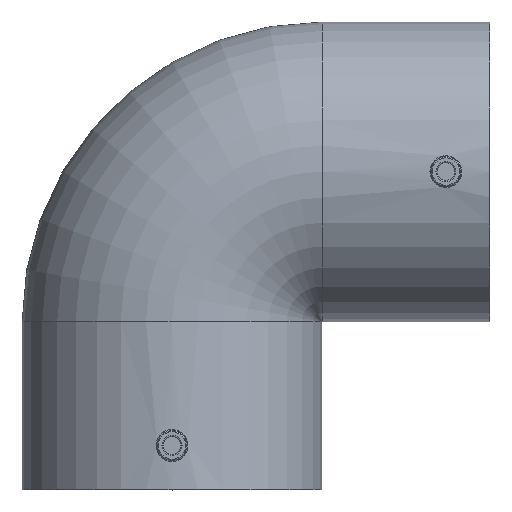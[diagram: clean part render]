
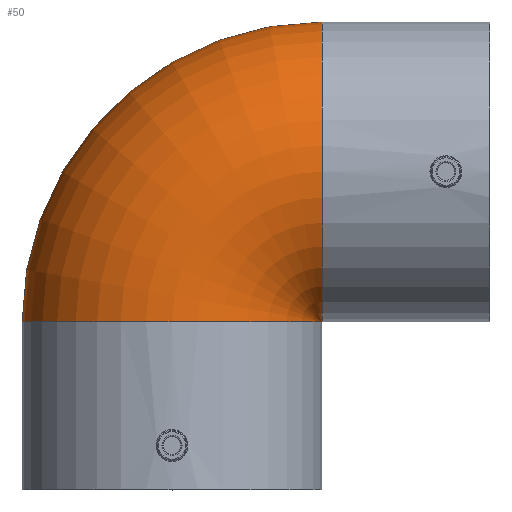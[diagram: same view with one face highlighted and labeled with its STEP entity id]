
A CAD part, top view. The second image highlights one B-rep face of the part: STEP entity #50.
In plain terms, the highlighted toroidal (fillet/blend) face has major radius 67.1 mm and minor radius 67 mm.
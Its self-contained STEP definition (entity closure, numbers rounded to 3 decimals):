
#50 = ADVANCED_FACE ( 'NONE', ( #790 ), #1873, .T. ) ;
#200 = CARTESIAN_POINT ( 'NONE',  ( -75.1, -67.1, 0. ) ) ;
#219 = CARTESIAN_POINT ( 'NONE',  ( -209.1, -67.1, 0. ) ) ;
#220 = CARTESIAN_POINT ( 'NONE',  ( -75., 67., 0. ) ) ;
#221 = CARTESIAN_POINT ( 'NONE',  ( -75., -67., 0. ) ) ;
#410 = EDGE_LOOP ( 'NONE', ( #1248, #1249, #1250, #1251 ) ) ;
#775 = DIRECTION ( 'NONE',  ( 1., 0., 0. ) ) ;
#776 = CARTESIAN_POINT ( 'NONE',  ( -75., -67.1, 0. ) ) ;
#786 = DIRECTION ( 'NONE',  ( 0., 0., 1. ) ) ;
#790 = FACE_OUTER_BOUND ( 'NONE', #410, .T. ) ;
#1219 = VERTEX_POINT ( 'NONE', #221 ) ;
#1220 = VERTEX_POINT ( 'NONE', #220 ) ;
#1221 = VERTEX_POINT ( 'NONE', #219 ) ;
#1240 = VERTEX_POINT ( 'NONE', #200 ) ;
#1248 = ORIENTED_EDGE ( 'NONE', *, *, #2104, .F. ) ;
#1249 = ORIENTED_EDGE ( 'NONE', *, *, #2105, .T. ) ;
#1250 = ORIENTED_EDGE ( 'NONE', *, *, #2106, .T. ) ;
#1251 = ORIENTED_EDGE ( 'NONE', *, *, #2112, .F. ) ;
#1608 = CARTESIAN_POINT ( 'NONE',  ( -75., 0., 0. ) ) ;
#1609 = DIRECTION ( 'NONE',  ( 1., 0., 0. ) ) ;
#1610 = DIRECTION ( 'NONE',  ( 0., 0., -1. ) ) ;
#1611 = CARTESIAN_POINT ( 'NONE',  ( -75., -67.1, 0. ) ) ;
#1612 = DIRECTION ( 'NONE',  ( 0., 0., 1. ) ) ;
#1613 = DIRECTION ( 'NONE',  ( 1., 0., 0. ) ) ;
#1614 = CARTESIAN_POINT ( 'NONE',  ( -142.1, -67.1, 0. ) ) ;
#1615 = DIRECTION ( 'NONE',  ( 0., 1., 0. ) ) ;
#1616 = DIRECTION ( 'NONE',  ( 0., 0., -1. ) ) ;
#1633 = CARTESIAN_POINT ( 'NONE',  ( -75., -67.1, 0. ) ) ;
#1634 = DIRECTION ( 'NONE',  ( 0., 0., 1. ) ) ;
#1635 = DIRECTION ( 'NONE',  ( 1., 0., 0. ) ) ;
#1723 = CIRCLE ( 'NONE', #1732, 67. ) ;
#1729 = CIRCLE ( 'NONE', #1797, 134.1 ) ;
#1731 = CIRCLE ( 'NONE', #1908, 0.1 ) ;
#1732 = AXIS2_PLACEMENT_3D ( 'NONE', #1608, #1609, #1610 ) ;
#1749 = CIRCLE ( 'NONE', #1792, 67. ) ;
#1792 = AXIS2_PLACEMENT_3D ( 'NONE', #1614, #1615, #1616 ) ;
#1797 = AXIS2_PLACEMENT_3D ( 'NONE', #1611, #1612, #1613 ) ;
#1871 = AXIS2_PLACEMENT_3D ( 'NONE', #776, #786, #775 ) ;
#1873 = TOROIDAL_SURFACE ( 'NONE', #1871, 67.1, 67. ) ;
#1908 = AXIS2_PLACEMENT_3D ( 'NONE', #1633, #1634, #1635 ) ;
#2104 = EDGE_CURVE ( 'NONE', #1220, #1219, #1723, .T. ) ;
#2105 = EDGE_CURVE ( 'NONE', #1220, #1221, #1729, .T. ) ;
#2106 = EDGE_CURVE ( 'NONE', #1221, #1240, #1749, .T. ) ;
#2112 = EDGE_CURVE ( 'NONE', #1219, #1240, #1731, .T. ) ;
